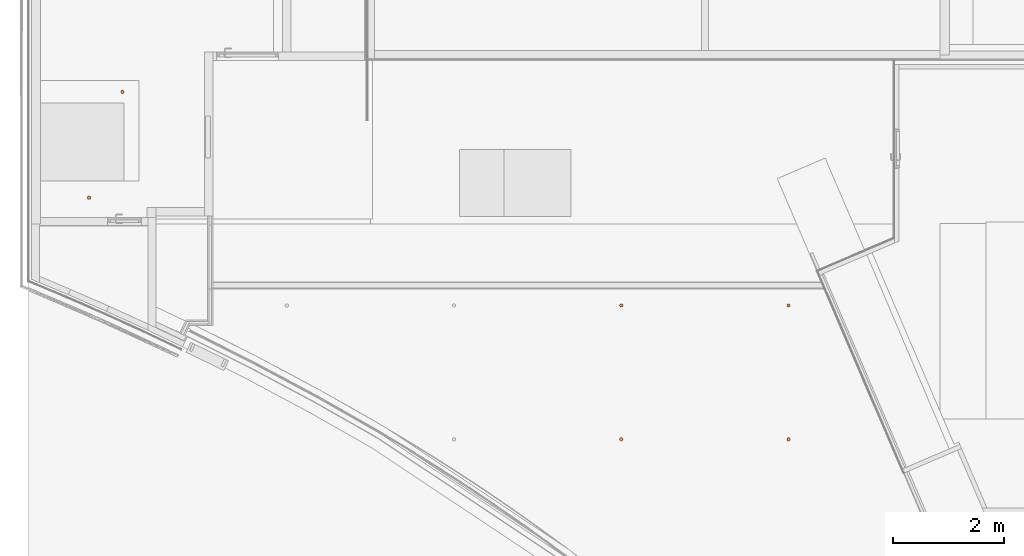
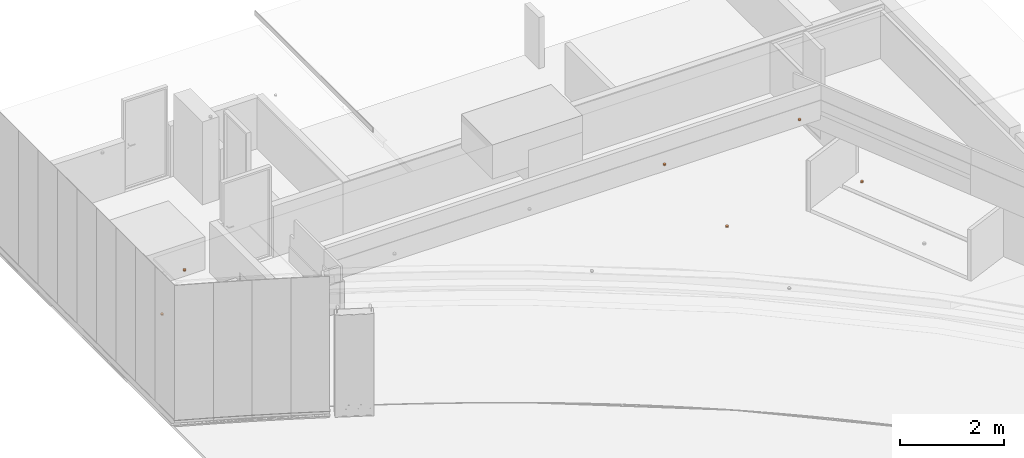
# One storey, part 13 of 16: 6 proxies.
"""IFC2X3 building model written with IfcOpenShell, lengths in millimetres."""

import ifcopenshell
import ifcopenshell.guid

model = None  # the IFC model being written
_history = None  # IfcOwnerHistory: only IFC2X3 demands one
_inside = {}  # id of a spatial element -> (the spatial element, [elements in it])
_under = {}  # id of a project, library or spatial element -> (it, [spatial elements below it])
_declared = {}  # id of a project -> (the project, [libraries it declares])
_typed = {}  # id of a type object -> (the type object, [elements of that type])
_made_of = {}  # id of a material, layer set ... -> (it, [elements and type objects made of it])


def new_model(schema):
    """Start an empty IFC model of exactly this schema.

    Asked for "IFC4X3", IfcOpenShell would pick the latest addendum, in which some entities
    have other attributes; the version numbers below select the first issue.
    IFC2X3 requires an IfcOwnerHistory on every rooted entity: one is made here for all.
    """
    global model, _history
    if schema == "IFC4X3":
        model = ifcopenshell.file(schema_version=(4, 3, 0, 0))
    else:
        model = ifcopenshell.file(schema=schema)
    _inside.clear()
    _under.clear()
    _declared.clear()
    _typed.clear()
    _made_of.clear()
    _history = None
    if model.schema == "IFC2X3":
        org = make("IfcOrganization", Name="unknown")
        user = make(
            "IfcPersonAndOrganization",
            ThePerson=make("IfcPerson", FamilyName="unknown"),
            TheOrganization=org,
        )
        app = make(
            "IfcApplication",
            ApplicationDeveloper=org,
            Version="unknown",
            ApplicationFullName="unknown",
            ApplicationIdentifier="unknown",
        )
        _history = make(
            "IfcOwnerHistory",
            OwningUser=user,
            OwningApplication=app,
            ChangeAction="ADDED",
            CreationDate=0,
        )
    return model


def make(cls, **values):
    """One entity of the class cls with the attributes given. An attribute that is None is left unset."""
    return model.create_entity(
        cls, **{name: value for name, value in values.items() if value is not None}
    )


def entity(cls, *values):
    """Any entity or typed value of the class cls, its attributes in the order of the schema. None: left unset."""
    e = model.create_entity(cls)
    for i, value in enumerate(values):
        if value is not None:
            e[i] = value
    return e


def rooted(cls, **values):
    """An entity with a GlobalId (a new one), such as an element, a storey or a relation."""
    return make(cls, GlobalId=ifcopenshell.guid.new(), OwnerHistory=_history, **values)


def si_unit(unit_type, name, prefix=None):
    """IfcSIUnit, for example si_unit("LENGTHUNIT", "METRE", prefix="MILLI")."""
    return make("IfcSIUnit", UnitType=unit_type, Prefix=prefix, Name=name)


def converted_unit(unit_type, name, factor, base, dimensions=None, offset=None):
    """IfcConversionBasedUnit, such as the inch: factor (a typed value) times the base unit."""
    return make(
        "IfcConversionBasedUnit"
        if offset is None
        else "IfcConversionBasedUnitWithOffset",
        ConversionOffset=offset,
        Dimensions=None
        if dimensions is None
        else entity("IfcDimensionalExponents", *dimensions),
        UnitType=unit_type,
        Name=name,
        ConversionFactor=make(
            "IfcMeasureWithUnit", ValueComponent=factor, UnitComponent=base
        ),
    )


def derived_unit(unit_type, elements):
    """IfcDerivedUnit: a product of units, each with its exponent."""
    return make(
        "IfcDerivedUnit",
        Elements=[
            make("IfcDerivedUnitElement", Unit=unit, Exponent=power)
            for unit, power in elements
        ],
        UnitType=unit_type,
    )


def assignment(units):
    """IfcUnitAssignment: the units of a project."""
    return None if units is None else make("IfcUnitAssignment", Units=units)


def point(xyz):
    """IfcCartesianPoint."""
    return None if xyz is None else make("IfcCartesianPoint", Coordinates=xyz)


def direction(xyz):
    """IfcDirection."""
    return None if xyz is None else make("IfcDirection", DirectionRatios=xyz)


def frame(location, z_axis=None, x_axis=None):
    """IfcAxis2Placement3D, a coordinate frame: its origin and axes. An axis left out is left unset."""
    return make(
        "IfcAxis2Placement3D",
        Location=point(location),
        Axis=direction(z_axis),
        RefDirection=direction(x_axis),
    )


def frame_2d(location, x_axis=None):
    """IfcAxis2Placement2D, a coordinate frame in the plane: its origin and x axis."""
    return make(
        "IfcAxis2Placement2D", Location=point(location), RefDirection=direction(x_axis)
    )


def origin():
    """The frame at (0, 0, 0) with its axes left unset."""
    return frame((0.0, 0.0, 0.0))


def origin_with_axes():
    """The frame at (0, 0, 0) with the z axis (0, 0, 1) and the x axis (1, 0, 0) written out."""
    return frame((0.0, 0.0, 0.0), z_axis=(0.0, 0.0, 1.0), x_axis=(1.0, 0.0, 0.0))


def place(relative_to, where):
    """IfcLocalPlacement: puts the frame where relative to a parent placement (None: the world)."""
    return make(
        "IfcLocalPlacement", PlacementRelTo=relative_to, RelativePlacement=where
    )


def context(
    kind, dimensions, precision=None, world=None, true_north=None, identifier=None
):
    """IfcGeometricRepresentationContext, for example the 3D "Model" context."""
    return make(
        "IfcGeometricRepresentationContext",
        ContextIdentifier=identifier,
        ContextType=kind,
        CoordinateSpaceDimension=dimensions,
        Precision=precision,
        WorldCoordinateSystem=world,
        TrueNorth=true_north,
    )


def subcontext(parent, identifier, kind, view, scale=None):
    """IfcGeometricRepresentationSubContext, for example "Body" below "Model"."""
    return make(
        "IfcGeometricRepresentationSubContext",
        ContextIdentifier=identifier,
        ContextType=kind,
        ParentContext=parent,
        TargetScale=scale,
        TargetView=view,
    )


def project(units=None, contexts=None):
    """IfcProject with its units and contexts."""
    return rooted(
        "IfcProject",
        Name="project",
        RepresentationContexts=contexts,
        UnitsInContext=assignment(units),
    )


def spatial(cls, under=None, at=None, **own):
    """A site, building, storey or space (cls), placed at a placement, below another one or the project."""
    s = rooted(cls, ObjectPlacement=at, **own)
    if under is not None:
        _under.setdefault(under.id(), (under, []))[1].append(s)
    return s


def profile(cls, at=None, kind="AREA", **sizes):
    """A parametric profile (cls). Its sizes go by their IFC names, for example OverallWidth=200.0."""
    return make(cls, ProfileType=kind, Position=at, **sizes)


def circle(**sizes):
    """IfcCircleProfileDef."""
    return profile("IfcCircleProfileDef", **sizes)


def extrude(swept, where, along, depth):
    """IfcExtrudedAreaSolid: the profile swept, set in the frame where, extruded along a direction by depth."""
    return make(
        "IfcExtrudedAreaSolid",
        SweptArea=swept,
        Position=where,
        ExtrudedDirection=direction(along),
        Depth=depth,
    )


def shape(context_of_items, identifier, shape_type, items):
    """IfcShapeRepresentation: the items that make up one representation, for example the "Body"."""
    return make(
        "IfcShapeRepresentation",
        ContextOfItems=context_of_items,
        RepresentationIdentifier=identifier,
        RepresentationType=shape_type,
        Items=items,
    )


def source(mapping_origin, context_of_items, identifier, shape_type, items):
    """IfcRepresentationMap: a shape defined once, which mapped items show again and again."""
    return make(
        "IfcRepresentationMap",
        MappingOrigin=mapping_origin,
        MappedRepresentation=shape(context_of_items, identifier, shape_type, items),
    )


def transform(
    local_origin,
    x_axis=None,
    y_axis=None,
    z_axis=None,
    scale=None,
    scale2=None,
    scale3=None,
    uniform=True,
):
    """IfcCartesianTransformationOperator3D, or its non-uniform kind. x_axis, y_axis, z_axis: its Axis1, 2, 3."""
    if uniform:
        return make(
            "IfcCartesianTransformationOperator3D",
            Axis1=direction(x_axis),
            Axis2=direction(y_axis),
            LocalOrigin=point(local_origin),
            Scale=scale,
            Axis3=direction(z_axis),
        )
    return make(
        "IfcCartesianTransformationOperator3DnonUniform",
        Axis1=direction(x_axis),
        Axis2=direction(y_axis),
        LocalOrigin=point(local_origin),
        Scale=scale,
        Axis3=direction(z_axis),
        Scale2=scale2,
        Scale3=scale3,
    )


def mapped(mapping_source, mapping_target):
    """IfcMappedItem: shows the shape of a source again, moved by a transform."""
    return make(
        "IfcMappedItem", MappingSource=mapping_source, MappingTarget=mapping_target
    )


def material(Name=None, Category=None):
    """IfcMaterial."""
    return make("IfcMaterial", Name=Name, Category=Category)


def made_of(thing, what):
    """Note that an element or type object is made of a material, layer set ...; save() writes the relation."""
    if what is not None:
        _made_of.setdefault(what.id(), (what, []))[1].append(thing)
    return thing


def type_object(cls, material=None, **own):
    """A type object (cls), such as IfcWallType, which elements share."""
    return made_of(rooted(cls, **own), material)


def element(
    cls,
    number,
    at=None,
    inside=None,
    cuts=None,
    type_object=None,
    material=None,
    context=None,
    identifier="Body",
    shape_type=None,
    held_by="IfcProductDefinitionShape",
    body=None,
    shapes=None,
    **own,
):
    """One element of the class cls, such as IfcWall. Its Tag is "e" and its number.

    at: its placement. inside: the storey or other place that contains it. cuts: it is an
    opening in that element (IfcRelVoidsElement). A single representation is given by context,
    identifier, shape_type and body (its items); several are given by shapes. held_by: the class
    of the entity that holds the representations. save() writes the other relations.
    """
    e = rooted(cls, Tag="e%d" % number, ObjectPlacement=at, **own)
    if body is not None:
        shapes = [shape(context, identifier, shape_type, body)]
    if shapes is not None:
        e.Representation = make(held_by, Representations=shapes)
    if inside is not None:
        _inside.setdefault(inside.id(), (inside, []))[1].append(e)
    if cuts is not None:
        rooted(
            "IfcRelVoidsElement", RelatingBuildingElement=cuts, RelatedOpeningElement=e
        )
    if type_object is not None:
        _typed.setdefault(type_object.id(), (type_object, []))[1].append(e)
    return made_of(e, material)


def aggregate(whole, parts):
    """IfcRelAggregates: a whole, such as a stair, and the parts it consists of."""
    return rooted("IfcRelAggregates", RelatingObject=whole, RelatedObjects=parts)


def save(model, path):
    """Write the relations noted so far, then the file.

    IfcRelAggregates (storeys below a building ...), IfcRelContainedInSpatialStructure (elements
    in a storey), IfcRelDefinesByType, IfcRelAssociatesMaterial and IfcRelDeclares: one each for
    every whole, place, type object, material and project.
    """
    for whole, parts in _under.values():
        aggregate(whole, parts)
    for where, things in _inside.values():
        rooted(
            "IfcRelContainedInSpatialStructure",
            RelatedElements=things,
            RelatingStructure=where,
        )
    for kind, things in _typed.values():
        rooted("IfcRelDefinesByType", RelatedObjects=things, RelatingType=kind)
    for what, things in _made_of.values():
        rooted("IfcRelAssociatesMaterial", RelatedObjects=things, RelatingMaterial=what)
    for by, libraries in _declared.values():
        rooted("IfcRelDeclares", RelatingContext=by, RelatedDefinitions=libraries)
    model.write(path)


model = new_model("IFC2X3")

# Units and contexts
model_context = context("Model", 3, precision=0.01, world=frame((0.0, 4.29681676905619e-09, 0.0)), true_north=direction((4.01073788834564e-13, 1.0)))
plan_context = context("Plan", 3, precision=0.01, world=frame((0.0, 4.29681676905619e-09, 0.0)), true_north=direction((4.01073788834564e-13, 1.0)))
body_context = subcontext(model_context, "Body", "Model", "MODEL_VIEW")
ifc_project = project(units=[converted_unit("PLANEANGLEUNIT", "DEGREE", entity("IfcPositiveLengthMeasure", 0.0174532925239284), si_unit("PLANEANGLEUNIT", "RADIAN"), dimensions=[0, 0, 0, 0, 0, 0, 0]), si_unit("AREAUNIT", "SQUARE_METRE"), si_unit("LENGTHUNIT", "METRE", prefix="MILLI"), si_unit("MASSUNIT", "GRAM", prefix="KILO"), si_unit("POWERUNIT", "WATT"), si_unit("PRESSUREUNIT", "PASCAL"), si_unit("FORCEUNIT", "NEWTON", prefix="KILO"), si_unit("ELECTRICCURRENTUNIT", "AMPERE"), si_unit("THERMODYNAMICTEMPERATUREUNIT", "DEGREE_CELSIUS"), si_unit("TIMEUNIT", "SECOND"), si_unit("VOLUMEUNIT", "CUBIC_METRE"), derived_unit("LINEARVELOCITYUNIT", [(si_unit("LENGTHUNIT", "METRE"), 1), (si_unit("TIMEUNIT", "SECOND"), -1)]), derived_unit("VOLUMETRICFLOWRATEUNIT", [(si_unit("VOLUMEUNIT", "CUBIC_METRE"), 1), (si_unit("TIMEUNIT", "SECOND"), -1)]), derived_unit("THERMALTRANSMITTANCEUNIT", [(si_unit("POWERUNIT", "WATT"), 1), (si_unit("THERMODYNAMICTEMPERATUREUNIT", "KELVIN"), -1), (si_unit("AREAUNIT", "SQUARE_METRE"), -1)])], contexts=[model_context, plan_context])

# Site, building, storey
site_placement = place(None, origin_with_axes())
site = spatial("IfcSite", under=ifc_project, at=site_placement, Name="ENGM", CompositionType="ELEMENT")
building_placement = place(site_placement, origin_with_axes())
building = spatial("IfcBuilding", under=site, at=building_placement, Name="TS", CompositionType="ELEMENT")
storey_placement = place(building_placement, frame((0.0, 0.0, 204000.0), z_axis=(0.0, 0.0, 1.0), x_axis=(1.0, 0.0, 0.0)))
storey = spatial("IfcBuildingStorey", under=building, at=storey_placement, Name="Nivå D", CompositionType="ELEMENT", Elevation=204000.0)

# Proxies
ifc_material = material(Name="<Unnamed>")
building_element_proxy_type_1 = type_object("IfcBuildingElementProxyType", Name="V333 - Sprinkelhode:V333 - Sprinkelhode", PredefinedType="NOTDEFINED", material=ifc_material)
shared_shape_1 = source(origin(), body_context, "Body", "SweptSolid", [
    extrude(circle(Radius=30.0, at=frame_2d((-6.55042322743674e-16, -4.84663372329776e-14), x_axis=(1.0, 0.0))), frame((0.0, 0.0, 2418.4)), (0.0, 0.0, 1.0), 29.9999999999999),
])
for number, where, z_axis, x_axis, name in (
    (1, (515550.000000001, 416833.845726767, -2438.39999999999), (0.0, 0.0, 1.0), (1.0, 0.0, 0.0), "V333 - Sprinkelhode:V333 - Sprinkelhode"),
    (2, (514950.000000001, 414933.845726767, -38.3999999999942), (0.0, 0.0, 1.0), (1.0, 0.0, 0.0), "V333 - Sprinkelhode:V333 - Sprinkelhode"),
):
    element("IfcBuildingElementProxy", number, at=place(storey_placement, frame(where, z_axis=z_axis, x_axis=x_axis)), inside=storey, type_object=building_element_proxy_type_1, material=ifc_material, Name=name, ObjectType="V333 - Sprinkelhode:V333 - Sprinkelhode", context=body_context, shape_type="MappedRepresentation", body=[
        mapped(shared_shape_1, transform((0.0, 0.0, 0.0), scale=1.0)),
    ])
building_element_proxy_type_2 = type_object("IfcBuildingElementProxyType", Name="V333 - Sprinkelhode:V333 - Sprinkelhode", PredefinedType="NOTDEFINED", material=ifc_material)
shared_shape_2 = source(origin(), body_context, "Body", "SweptSolid", [
    extrude(circle(Radius=30.0, at=frame_2d((-6.55042322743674e-16, -4.84663372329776e-14), x_axis=(1.0, 0.0))), frame((0.0, 0.0, 2418.4)), (0.0, 0.0, 1.0), 29.9999999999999),
])
for number, where, z_axis, x_axis, name in (
    (3, (527500.000000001, 410599.999999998, 271.600000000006), (0.0, 0.0, 1.0), (1.0, 0.0, 0.0), "V333 - Sprinkelhode:V333 - Sprinkelhode"),
    (4, (524500.000000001, 410599.999999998, 271.600000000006), (0.0, 0.0, 1.0), (1.0, 0.0, 0.0), "V333 - Sprinkelhode:V333 - Sprinkelhode"),
    (5, (527500.000000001, 412999.999999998, 271.600000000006), (0.0, 0.0, 1.0), (1.0, 0.0, 0.0), "V333 - Sprinkelhode:V333 - Sprinkelhode"),
    (6, (524500.000000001, 412999.999999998, 271.600000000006), (0.0, 0.0, 1.0), (1.0, 0.0, 0.0), "V333 - Sprinkelhode:V333 - Sprinkelhode"),
):
    element("IfcBuildingElementProxy", number, at=place(storey_placement, frame(where, z_axis=z_axis, x_axis=x_axis)), inside=storey, type_object=building_element_proxy_type_2, material=ifc_material, Name=name, ObjectType="V333 - Sprinkelhode:V333 - Sprinkelhode", context=body_context, shape_type="MappedRepresentation", body=[
        mapped(shared_shape_2, transform((0.0, 0.0, 0.0), scale=1.0)),
    ])

save(model, "model.ifc")
